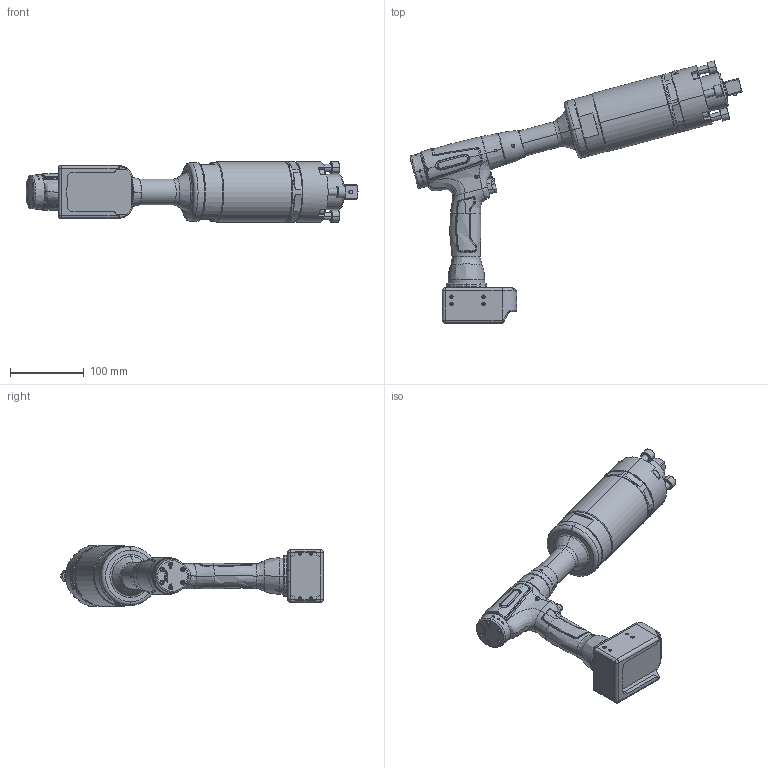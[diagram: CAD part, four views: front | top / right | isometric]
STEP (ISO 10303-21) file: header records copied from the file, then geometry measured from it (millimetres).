
FILE_DESCRIPTION (( 'STEP AP214' ), '1' );
FILE_NAME ('70261112_PSXSBW1330ZV34.STEP', '2025-11-25T09:20:39', ( '' ), ( '' ), 'SwSTEP 2.0', 'SolidWorks 2020', '' );
FILE_SCHEMA (( 'AUTOMOTIVE_DESIGN' ));
Length unit declared in the file: millimetre
Products named in the file (6): 70206244; 70261112_PSXSBW1330ZV34; 70252787; 70261163; 70248900; 70104066
Assembly tree (5 placements, depth 2):
  70261112_PSXSBW1330ZV34
    70252787
    70248900
    70206244
    70261163
    70104066
Bounding box: 450.7 x 356.21 x 82 mm (x, y, z)
Volume: 1817658.6 mm3; surface area: 205862.5 mm2
Topology: 5 solids, 22 shells, 2328 faces, 5933 edges, 3691 vertices
Faces by surface type: cylinder 765, plane 619, cone 460, bspline 339, torus 135, sphere 10
Entity records: 116456 total; most frequent: CARTESIAN_POINT 61380, ORIENTED_EDGE 11728, DIRECTION 9893, EDGE_CURVE 5864, AXIS2_PLACEMENT_3D 3995, VERTEX_POINT 3688, EDGE_LOOP 2496, ADVANCED_FACE 2328
